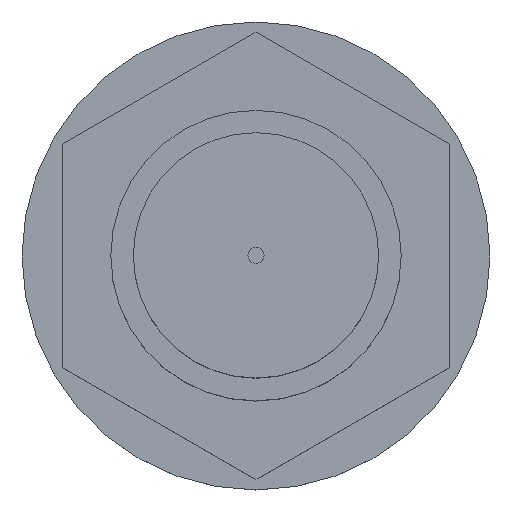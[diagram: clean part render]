
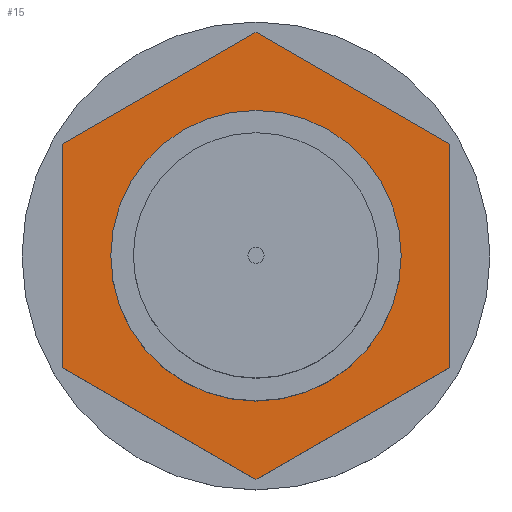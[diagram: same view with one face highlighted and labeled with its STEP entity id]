
A CAD part, top view. The second image highlights one B-rep face of the part: STEP entity #15.
In plain terms, the highlighted planar face has unit normal (0, 0, 1) as drawn and (-1, 0, 0) by its records, which use the part's own axes.
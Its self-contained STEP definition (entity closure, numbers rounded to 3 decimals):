
#1 = ORIENTED_EDGE ( 'NONE', *, *, #1268, .T. ) ;
#2 = VERTEX_POINT ( 'NONE', #1356 ) ;
#3 = EDGE_CURVE ( 'NONE', #10, #2, #400, .T. ) ;
#4 = ORIENTED_EDGE ( 'NONE', *, *, #3, .T. ) ;
#5 = ORIENTED_EDGE ( 'NONE', *, *, #11, .T. ) ;
#6 = VERTEX_POINT ( 'NONE', #396 ) ;
#7 = EDGE_CURVE ( 'NONE', #9, #13, #395, .T. ) ;
#8 = ORIENTED_EDGE ( 'NONE', *, *, #12, .T. ) ;
#9 = VERTEX_POINT ( 'NONE', #391 ) ;
#10 = VERTEX_POINT ( 'NONE', #390 ) ;
#11 = EDGE_CURVE ( 'NONE', #13, #6, #389, .T. ) ;
#12 = EDGE_CURVE ( 'NONE', #6, #10, #385, .T. ) ;
#13 = VERTEX_POINT ( 'NONE', #381 ) ;
#14 = ORIENTED_EDGE ( 'NONE', *, *, #7, .T. ) ;
#15 = ADVANCED_FACE ( 'NONE', ( #380, #379 ), #378, .F. ) ;
#72 = ORIENTED_EDGE ( 'NONE', *, *, #74, .F. ) ;
#73 = ORIENTED_EDGE ( 'NONE', *, *, #296, .F. ) ;
#74 = EDGE_CURVE ( 'NONE', #297, #293, #482, .T. ) ;
#80 = EDGE_LOOP ( 'NONE', ( #73, #72 ) ) ;
#293 = VERTEX_POINT ( 'NONE', #880 ) ;
#296 = EDGE_CURVE ( 'NONE', #293, #297, #879, .T. ) ;
#297 = VERTEX_POINT ( 'NONE', #874 ) ;
#306 = EDGE_LOOP ( 'NONE', ( #14, #5, #8, #4, #1, #1266 ) ) ;
#374 = DIRECTION ( 'NONE',  ( 0., 0.5, -0.866 ) ) ;
#375 = DIRECTION ( 'NONE',  ( 1., 0., 0. ) ) ;
#376 = CARTESIAN_POINT ( 'NONE',  ( 17.8, 13.856, 0. ) ) ;
#377 = AXIS2_PLACEMENT_3D ( 'NONE', #376, #375, #374 ) ;
#378 = PLANE ( 'NONE',  #377 ) ;
#379 = FACE_BOUND ( 'NONE', #80, .T. ) ;
#380 = FACE_OUTER_BOUND ( 'NONE', #306, .T. ) ;
#381 = CARTESIAN_POINT ( 'NONE',  ( 17.8, 6.928, -12. ) ) ;
#382 = DIRECTION ( 'NONE',  ( 0., -0.5, 0.866 ) ) ;
#383 = VECTOR ( 'NONE', #382, 1000. ) ;
#384 = CARTESIAN_POINT ( 'NONE',  ( 17.8, -6.928, -12. ) ) ;
#385 = LINE ( 'NONE', #384, #383 ) ;
#386 = DIRECTION ( 'NONE',  ( 0., -1., 0. ) ) ;
#387 = VECTOR ( 'NONE', #386, 1000. ) ;
#388 = CARTESIAN_POINT ( 'NONE',  ( 17.8, 6.928, -12. ) ) ;
#389 = LINE ( 'NONE', #388, #387 ) ;
#390 = CARTESIAN_POINT ( 'NONE',  ( 17.8, -13.856, 0. ) ) ;
#391 = CARTESIAN_POINT ( 'NONE',  ( 17.8, 13.856, 0. ) ) ;
#392 = DIRECTION ( 'NONE',  ( 0., -0.5, -0.866 ) ) ;
#393 = VECTOR ( 'NONE', #392, 1000. ) ;
#394 = CARTESIAN_POINT ( 'NONE',  ( 17.8, 13.856, 0. ) ) ;
#395 = LINE ( 'NONE', #394, #393 ) ;
#396 = CARTESIAN_POINT ( 'NONE',  ( 17.8, -6.928, -12. ) ) ;
#397 = DIRECTION ( 'NONE',  ( 0., 0.5, 0.866 ) ) ;
#398 = VECTOR ( 'NONE', #397, 1000. ) ;
#399 = CARTESIAN_POINT ( 'NONE',  ( 17.8, -13.856, 0. ) ) ;
#400 = LINE ( 'NONE', #399, #398 ) ;
#478 = DIRECTION ( 'NONE',  ( 0., -0.5, 0.866 ) ) ;
#479 = DIRECTION ( 'NONE',  ( -1., 0., 0. ) ) ;
#480 = CARTESIAN_POINT ( 'NONE',  ( 17.8, 0., 0. ) ) ;
#481 = AXIS2_PLACEMENT_3D ( 'NONE', #480, #479, #478 ) ;
#482 = CIRCLE ( 'NONE', #481, 9. ) ;
#874 = CARTESIAN_POINT ( 'NONE',  ( 17.8, -4.5, 7.794 ) ) ;
#875 = DIRECTION ( 'NONE',  ( 0., -0.5, 0.866 ) ) ;
#876 = DIRECTION ( 'NONE',  ( -1., 0., 0. ) ) ;
#877 = CARTESIAN_POINT ( 'NONE',  ( 17.8, 0., 0. ) ) ;
#878 = AXIS2_PLACEMENT_3D ( 'NONE', #877, #876, #875 ) ;
#879 = CIRCLE ( 'NONE', #878, 9. ) ;
#880 = CARTESIAN_POINT ( 'NONE',  ( 17.8, 4.5, -7.794 ) ) ;
#951 = DIRECTION ( 'NONE',  ( 0., 0.5, -0.866 ) ) ;
#952 = VECTOR ( 'NONE', #951, 1000. ) ;
#953 = CARTESIAN_POINT ( 'NONE',  ( 17.8, 6.928, 12. ) ) ;
#958 = LINE ( 'NONE', #953, #952 ) ;
#1012 = DIRECTION ( 'NONE',  ( 0., 1., 0. ) ) ;
#1013 = VECTOR ( 'NONE', #1012, 1000. ) ;
#1014 = CARTESIAN_POINT ( 'NONE',  ( 17.8, -6.928, 12. ) ) ;
#1015 = LINE ( 'NONE', #1014, #1013 ) ;
#1016 = CARTESIAN_POINT ( 'NONE',  ( 17.8, 6.928, 12. ) ) ;
#1265 = EDGE_CURVE ( 'NONE', #1267, #9, #958, .T. ) ;
#1266 = ORIENTED_EDGE ( 'NONE', *, *, #1265, .T. ) ;
#1267 = VERTEX_POINT ( 'NONE', #1016 ) ;
#1268 = EDGE_CURVE ( 'NONE', #2, #1267, #1015, .T. ) ;
#1356 = CARTESIAN_POINT ( 'NONE',  ( 17.8, -6.928, 12. ) ) ;
